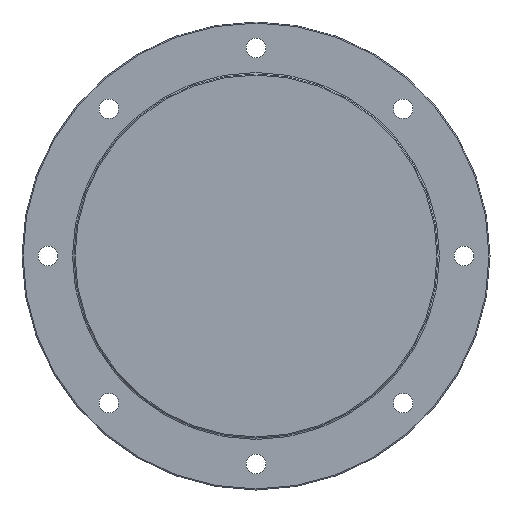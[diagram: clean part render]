
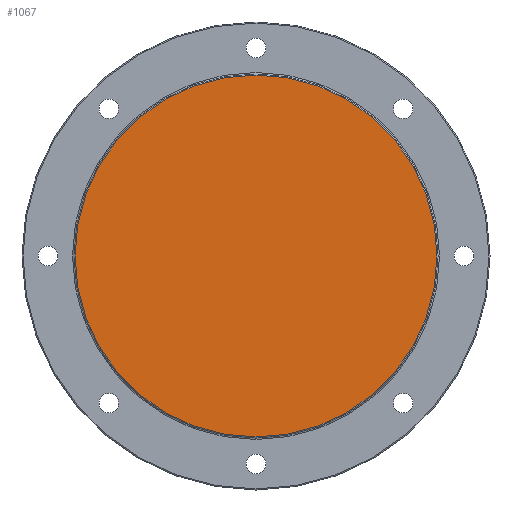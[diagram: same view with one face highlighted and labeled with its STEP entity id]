
A CAD part, left-side view. The second image highlights one B-rep face of the part: STEP entity #1067.
In plain terms, the highlighted planar face has unit normal (-1, 0, 0).
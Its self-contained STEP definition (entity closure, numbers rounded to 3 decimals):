
#1044=CARTESIAN_POINT('',(0.0,174.0,0.0));
#1045=VERTEX_POINT('',#1044);
#1046=CARTESIAN_POINT('',(0.0,0.0,0.0));
#1047=DIRECTION('',(1.0,0.0,0.0));
#1048=DIRECTION('',(0.0,-1.0,0.0));
#1049=AXIS2_PLACEMENT_3D('',#1046,#1047,#1048);
#1050=CIRCLE('',#1049,174.0);
#1051=EDGE_CURVE('',#1045,#1045,#1050,.T.);
#1059=CARTESIAN_POINT('',(0.0,145.319,0.));
#1060=DIRECTION('',(-1.0,0.0,0.0));
#1061=DIRECTION('',(0.0,0.0,1.0));
#1062=AXIS2_PLACEMENT_3D('',#1059,#1060,#1061);
#1063=PLANE('',#1062);
#1064=ORIENTED_EDGE('',*,*,#1051,.F.);
#1065=EDGE_LOOP('',(#1064));
#1066=FACE_OUTER_BOUND('',#1065,.T.);
#1067=ADVANCED_FACE('',(#1066),#1063,.T.);
